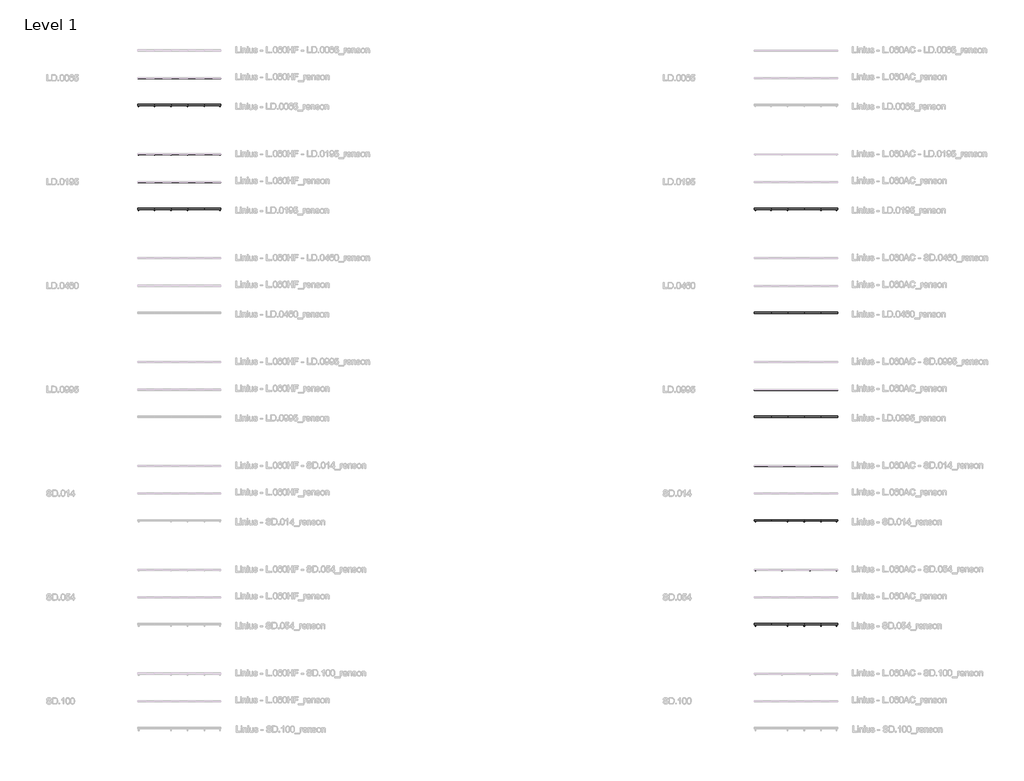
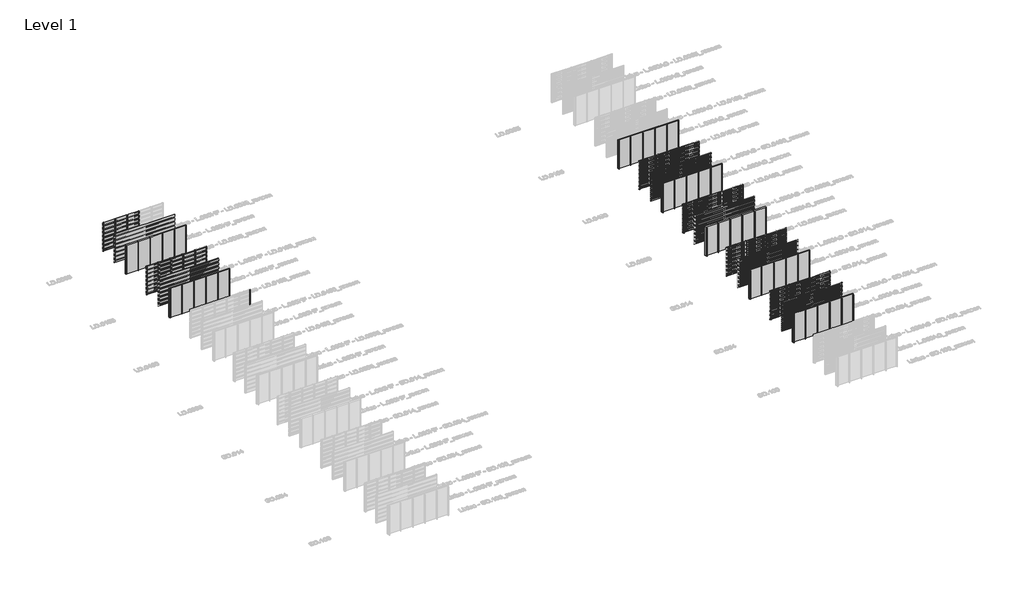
# One storey, part 3 of 153: 69 members, 61 plates.
"""IFC4 building model written with IfcOpenShell, lengths in millimetres."""

from ifc_helpers import new_model, si_unit, origin, origin_with_axes, place, context, project, spatial, polyline, outline, extrude, transform, mapped, element, save
from components import rectangular_mullion_42be434b, rectangular_mullion_e1f482b2, rectangular_mullion_21e3ddae, rectangular_mullion_fb497acc, rectangular_mullion_ffdfeaf4, rectangular_mullion_e0a14876, rectangular_mullion_146f339b, rectangular_mullion_aa1047c5, rectangular_mullion_c2c7736a, rectangular_mullion_35b0a916, rectangular_mullion_bd250e2e, rectangular_mullion_7b49c8f1, rectangular_mullion_3facce28, rectangular_mullion_2b84ad7e, rectangular_mullion_0fd695e7, rectangular_mullion_6cf2c509, rectangular_mullion_9b796d85, rectangular_mullion_dfb17e98, empty_system_panel_empty_5195cd12

model = new_model("IFC4")

# Units and contexts
model_context = context("Model", 3, world=origin())
ifc_project = project(units=[si_unit("LENGTHUNIT", "METRE", prefix="MILLI")], contexts=[model_context])

# Site, building, storey
site = spatial("IfcSite", under=ifc_project)
building = spatial("IfcBuilding", under=site)
storey = spatial("IfcBuildingStorey", under=building, Name="Level 1", Elevation=0.0)

# Members
placement = place(None, origin())
rectangular_mullion_shape = rectangular_mullion_42be434b(model_context)
element("IfcMember", 1, ObjectType="Rectangular Mullion : LD.0065_renson", at=placement, inside=storey, context=model_context, shape_type="MappedRepresentation", body=[
    mapped(rectangular_mullion_shape, transform((4066.6208096, 73981.0540136, 0.0), x_axis=(-1.0, 0.0, 0.0), y_axis=(0.0, 1.0, 0.0), z_axis=(0.0, 0.0, -1.0))),
])
element("IfcMember", 2, ObjectType="Rectangular Mullion : LD.0065_renson", at=placement, inside=storey, context=model_context, shape_type="MappedRepresentation", body=[
    mapped(rectangular_mullion_shape, transform((2866.6208097, 73981.0540136, 0.0), x_axis=(-1.0, 0.0, 0.0), y_axis=(0.0, 1.0, 0.0), z_axis=(0.0, 0.0, -1.0))),
])
element("IfcMember", 3, ObjectType="Rectangular Mullion : LD.0065_renson", at=placement, inside=storey, context=model_context, shape_type="MappedRepresentation", body=[
    mapped(rectangular_mullion_shape, transform((1666.6208099, 73981.0540136, 0.0), x_axis=(-1.0, 0.0, 0.0), y_axis=(0.0, 1.0, 0.0), z_axis=(0.0, 0.0, -1.0))),
])
element("IfcMember", 4, ObjectType="Rectangular Mullion : LD.0065_renson", at=placement, inside=storey, context=model_context, shape_type="MappedRepresentation", body=[
    mapped(rectangular_mullion_shape, transform((5266.6208095, 69981.0540136, 0.0), x_axis=(-1.0, 0.0, 0.0), y_axis=(0.0, 1.0, 0.0), z_axis=(0.0, 0.0, -1.0))),
])
element("IfcMember", 5, ObjectType="Rectangular Mullion : LD.0065_renson", at=placement, inside=storey, context=model_context, shape_type="MappedRepresentation", body=[
    mapped(rectangular_mullion_shape, transform((4066.6208096, 69981.0540136, 0.0), x_axis=(-1.0, 0.0, 0.0), y_axis=(0.0, 1.0, 0.0), z_axis=(0.0, 0.0, -1.0))),
])
element("IfcMember", 6, ObjectType="Rectangular Mullion : LD.0065_renson", at=placement, inside=storey, context=model_context, shape_type="MappedRepresentation", body=[
    mapped(rectangular_mullion_shape, transform((2866.6208097, 69981.0540136, 0.0), x_axis=(-1.0, 0.0, 0.0), y_axis=(0.0, 1.0, 0.0), z_axis=(0.0, 0.0, -1.0))),
])
element("IfcMember", 7, ObjectType="Rectangular Mullion : LD.0065_renson", at=placement, inside=storey, context=model_context, shape_type="MappedRepresentation", body=[
    mapped(rectangular_mullion_shape, transform((1666.6208099, 69981.0540136, 0.0), x_axis=(-1.0, 0.0, 0.0), y_axis=(0.0, 1.0, 0.0), z_axis=(0.0, 0.0, -1.0))),
])
rectangular_mullion_2_shape = rectangular_mullion_e1f482b2(model_context)
element("IfcMember", 8, ObjectType="Rectangular Mullion : LD.0195_renson", at=placement, inside=storey, context=model_context, shape_type="MappedRepresentation", body=[
    mapped(rectangular_mullion_2_shape, transform((5266.6208095, 66481.0540136, 0.0), x_axis=(-1.0, 0.0, 0.0), y_axis=(0.0, 1.0, 0.0), z_axis=(0.0, 0.0, -1.0))),
])
element("IfcMember", 9, ObjectType="Rectangular Mullion : LD.0195_renson", at=placement, inside=storey, context=model_context, shape_type="MappedRepresentation", body=[
    mapped(rectangular_mullion_2_shape, transform((4066.6208096, 66481.0540136, 0.0), x_axis=(-1.0, 0.0, 0.0), y_axis=(0.0, 1.0, 0.0), z_axis=(0.0, 0.0, -1.0))),
])
element("IfcMember", 10, ObjectType="Rectangular Mullion : LD.0195_renson", at=placement, inside=storey, context=model_context, shape_type="MappedRepresentation", body=[
    mapped(rectangular_mullion_2_shape, transform((2866.6208097, 66481.0540136, 0.0), x_axis=(-1.0, 0.0, 0.0), y_axis=(0.0, 1.0, 0.0), z_axis=(0.0, 0.0, -1.0))),
])
element("IfcMember", 11, ObjectType="Rectangular Mullion : LD.0195_renson", at=placement, inside=storey, context=model_context, shape_type="MappedRepresentation", body=[
    mapped(rectangular_mullion_2_shape, transform((1666.6208099, 66481.0540136, 0.0), x_axis=(-1.0, 0.0, 0.0), y_axis=(0.0, 1.0, 0.0), z_axis=(0.0, 0.0, -1.0))),
])
element("IfcMember", 12, ObjectType="Rectangular Mullion : LD.0195_renson", at=placement, inside=storey, context=model_context, shape_type="MappedRepresentation", body=[
    mapped(rectangular_mullion_2_shape, transform((5266.6208095, 62481.0540136, 0.0), x_axis=(-1.0, 0.0, 0.0), y_axis=(0.0, 1.0, 0.0), z_axis=(0.0, 0.0, -1.0))),
])
element("IfcMember", 13, ObjectType="Rectangular Mullion : LD.0195_renson", at=placement, inside=storey, context=model_context, shape_type="MappedRepresentation", body=[
    mapped(rectangular_mullion_2_shape, transform((4066.6208096, 62481.0540136, 0.0), x_axis=(-1.0, 0.0, 0.0), y_axis=(0.0, 1.0, 0.0), z_axis=(0.0, 0.0, -1.0))),
])
element("IfcMember", 14, ObjectType="Rectangular Mullion : LD.0195_renson", at=placement, inside=storey, context=model_context, shape_type="MappedRepresentation", body=[
    mapped(rectangular_mullion_2_shape, transform((2866.6208097, 62481.0540136, 0.0), x_axis=(-1.0, 0.0, 0.0), y_axis=(0.0, 1.0, 0.0), z_axis=(0.0, 0.0, -1.0))),
])
element("IfcMember", 15, ObjectType="Rectangular Mullion : LD.0195_renson", at=placement, inside=storey, context=model_context, shape_type="MappedRepresentation", body=[
    mapped(rectangular_mullion_2_shape, transform((1666.6208099, 62481.0540136, 0.0), x_axis=(-1.0, 0.0, 0.0), y_axis=(0.0, 1.0, 0.0), z_axis=(0.0, 0.0, -1.0))),
])
element("IfcMember", 16, ObjectType="Rectangular Mullion : LD.0195_renson", at=placement, inside=storey, context=model_context, shape_type="MappedRepresentation", body=[
    mapped(rectangular_mullion_2_shape, transform((47366.6208097, 62483.0540136, 0.0), x_axis=(-1.0, 0.0, 0.0), y_axis=(0.0, 1.0, 0.0), z_axis=(0.0, 0.0, -1.0))),
])
element("IfcMember", 17, ObjectType="Rectangular Mullion : LD.0195_renson", at=placement, inside=storey, context=model_context, shape_type="MappedRepresentation", body=[
    mapped(rectangular_mullion_2_shape, transform((46166.6208099, 62483.0540136, 0.0), x_axis=(-1.0, 0.0, 0.0), y_axis=(0.0, 1.0, 0.0), z_axis=(0.0, 0.0, -1.0))),
])
element("IfcMember", 18, ObjectType="Rectangular Mullion : LD.0195_renson", at=placement, inside=storey, context=model_context, shape_type="MappedRepresentation", body=[
    mapped(rectangular_mullion_2_shape, transform((48566.6208096, 62483.0540136, 0.0), x_axis=(-1.0, 0.0, 0.0), y_axis=(0.0, 1.0, 0.0), z_axis=(0.0, 0.0, -1.0))),
])
element("IfcMember", 19, ObjectType="Rectangular Mullion : LD.0195_renson", at=placement, inside=storey, context=model_context, shape_type="MappedRepresentation", body=[
    mapped(rectangular_mullion_2_shape, transform((49766.6208095, 62483.0540136, 0.0), x_axis=(-1.0, 0.0, 0.0), y_axis=(0.0, 1.0, 0.0), z_axis=(0.0, 0.0, -1.0))),
])
rectangular_mullion_3_shape = rectangular_mullion_21e3ddae(model_context)
element("IfcMember", 20, ObjectType="Rectangular Mullion : LD.0460_renson", at=placement, inside=storey, context=model_context, shape_type="MappedRepresentation", body=[
    mapped(rectangular_mullion_3_shape, transform((48966.6208096, 58983.0540136, 0.0), x_axis=(-1.0, 0.0, 0.0), y_axis=(0.0, 1.0, 0.0), z_axis=(0.0, 0.0, -1.0))),
])
element("IfcMember", 21, ObjectType="Rectangular Mullion : LD.0460_renson", at=placement, inside=storey, context=model_context, shape_type="MappedRepresentation", body=[
    mapped(rectangular_mullion_3_shape, transform((46966.6208098, 58983.0540136, 0.0), x_axis=(-1.0, 0.0, 0.0), y_axis=(0.0, 1.0, 0.0), z_axis=(0.0, 0.0, -1.0))),
])
element("IfcMember", 22, ObjectType="Rectangular Mullion : LD.0460_renson", at=placement, inside=storey, context=model_context, shape_type="MappedRepresentation", body=[
    mapped(rectangular_mullion_3_shape, transform((47366.6208097, 54983.0540136, 0.0), x_axis=(-1.0, 0.0, 0.0), y_axis=(0.0, 1.0, 0.0), z_axis=(0.0, 0.0, -1.0))),
])
element("IfcMember", 23, ObjectType="Rectangular Mullion : LD.0460_renson", at=placement, inside=storey, context=model_context, shape_type="MappedRepresentation", body=[
    mapped(rectangular_mullion_3_shape, transform((46166.6208099, 54983.0540136, 0.0), x_axis=(-1.0, 0.0, 0.0), y_axis=(0.0, 1.0, 0.0), z_axis=(0.0, 0.0, -1.0))),
])
element("IfcMember", 24, ObjectType="Rectangular Mullion : LD.0460_renson", at=placement, inside=storey, context=model_context, shape_type="MappedRepresentation", body=[
    mapped(rectangular_mullion_3_shape, transform((48566.6208096, 54983.0540136, 0.0), x_axis=(-1.0, 0.0, 0.0), y_axis=(0.0, 1.0, 0.0), z_axis=(0.0, 0.0, -1.0))),
])
element("IfcMember", 25, ObjectType="Rectangular Mullion : LD.0460_renson", at=placement, inside=storey, context=model_context, shape_type="MappedRepresentation", body=[
    mapped(rectangular_mullion_3_shape, transform((49766.6208095, 54983.0540136, 0.0), x_axis=(-1.0, 0.0, 0.0), y_axis=(0.0, 1.0, 0.0), z_axis=(0.0, 0.0, -1.0))),
])
rectangular_mullion_4_shape = rectangular_mullion_fb497acc(model_context)
element("IfcMember", 26, ObjectType="Rectangular Mullion : LD.0995_renson", at=placement, inside=storey, context=model_context, shape_type="MappedRepresentation", body=[
    mapped(rectangular_mullion_4_shape, transform((48966.6208096, 51483.0540136, 0.0), x_axis=(-1.0, 0.0, 0.0), y_axis=(0.0, 1.0, 0.0), z_axis=(0.0, 0.0, -1.0))),
])
element("IfcMember", 27, ObjectType="Rectangular Mullion : LD.0995_renson", at=placement, inside=storey, context=model_context, shape_type="MappedRepresentation", body=[
    mapped(rectangular_mullion_4_shape, transform((46966.6208098, 51483.0540136, 0.0), x_axis=(-1.0, 0.0, 0.0), y_axis=(0.0, 1.0, 0.0), z_axis=(0.0, 0.0, -1.0))),
])
element("IfcMember", 28, ObjectType="Rectangular Mullion : LD.0995_renson", at=placement, inside=storey, context=model_context, shape_type="MappedRepresentation", body=[
    mapped(rectangular_mullion_4_shape, transform((47366.6208097, 47483.0540136, 0.0), x_axis=(-1.0, 0.0, 0.0), y_axis=(0.0, 1.0, 0.0), z_axis=(0.0, 0.0, -1.0))),
])
element("IfcMember", 29, ObjectType="Rectangular Mullion : LD.0995_renson", at=placement, inside=storey, context=model_context, shape_type="MappedRepresentation", body=[
    mapped(rectangular_mullion_4_shape, transform((46166.6208099, 47483.0540136, 0.0), x_axis=(-1.0, 0.0, 0.0), y_axis=(0.0, 1.0, 0.0), z_axis=(0.0, 0.0, -1.0))),
])
element("IfcMember", 30, ObjectType="Rectangular Mullion : LD.0995_renson", at=placement, inside=storey, context=model_context, shape_type="MappedRepresentation", body=[
    mapped(rectangular_mullion_4_shape, transform((48566.6208096, 47483.0540136, 0.0), x_axis=(-1.0, 0.0, 0.0), y_axis=(0.0, 1.0, 0.0), z_axis=(0.0, 0.0, -1.0))),
])
element("IfcMember", 31, ObjectType="Rectangular Mullion : LD.0995_renson", at=placement, inside=storey, context=model_context, shape_type="MappedRepresentation", body=[
    mapped(rectangular_mullion_4_shape, transform((49766.6208095, 47483.0540136, 0.0), x_axis=(-1.0, 0.0, 0.0), y_axis=(0.0, 1.0, 0.0), z_axis=(0.0, 0.0, -1.0))),
])
rectangular_mullion_5_shape = rectangular_mullion_ffdfeaf4(model_context)
element("IfcMember", 32, ObjectType="Rectangular Mullion : LD.0065 - left_renson", at=placement, inside=storey, context=model_context, shape_type="MappedRepresentation", body=[
    mapped(rectangular_mullion_5_shape, transform((466.6208097, 73981.0540136, 0.0), x_axis=(-1.0, 0.0, 0.0), y_axis=(0.0, 1.0, 0.0), z_axis=(0.0, 0.0, -1.0))),
])
element("IfcMember", 33, ObjectType="Rectangular Mullion : LD.0065 - left_renson", at=placement, inside=storey, context=model_context, shape_type="MappedRepresentation", body=[
    mapped(rectangular_mullion_5_shape, transform((466.6208097, 69981.0540136, 0.0), x_axis=(-1.0, 0.0, 0.0), y_axis=(0.0, 1.0, 0.0), z_axis=(0.0, 0.0, -1.0))),
])
rectangular_mullion_6_shape = rectangular_mullion_e0a14876(model_context)
element("IfcMember", 34, ObjectType="Rectangular Mullion : LD.0065 - right_renson", at=placement, inside=storey, context=model_context, shape_type="MappedRepresentation", body=[
    mapped(rectangular_mullion_6_shape, transform((6466.6208097, 69981.0540136, 3000.0), x_axis=(1.0, 0.0, 0.0), y_axis=(0.0, 1.0, 0.0), z_axis=(0.0, 0.0, 1.0))),
])
rectangular_mullion_7_shape = rectangular_mullion_146f339b(model_context)
element("IfcMember", 35, ObjectType="Rectangular Mullion : LD.0195 - left_renson", at=placement, inside=storey, context=model_context, shape_type="MappedRepresentation", body=[
    mapped(rectangular_mullion_7_shape, transform((466.6208097, 66481.0540136, 0.0), x_axis=(-1.0, 0.0, 0.0), y_axis=(0.0, 1.0, 0.0), z_axis=(0.0, 0.0, -1.0))),
])
element("IfcMember", 36, ObjectType="Rectangular Mullion : LD.0195 - left_renson", at=placement, inside=storey, context=model_context, shape_type="MappedRepresentation", body=[
    mapped(rectangular_mullion_7_shape, transform((466.6208097, 62481.0540136, 0.0), x_axis=(-1.0, 0.0, 0.0), y_axis=(0.0, 1.0, 0.0), z_axis=(0.0, 0.0, -1.0))),
])
element("IfcMember", 37, ObjectType="Rectangular Mullion : LD.0195 - left_renson", at=placement, inside=storey, context=model_context, shape_type="MappedRepresentation", body=[
    mapped(rectangular_mullion_7_shape, transform((44966.6208097, 62483.0540136, 0.0), x_axis=(-1.0, 0.0, 0.0), y_axis=(0.0, 1.0, 0.0), z_axis=(0.0, 0.0, -1.0))),
])
rectangular_mullion_8_shape = rectangular_mullion_aa1047c5(model_context)
element("IfcMember", 38, ObjectType="Rectangular Mullion : LD.0195 - right_renson", at=placement, inside=storey, context=model_context, shape_type="MappedRepresentation", body=[
    mapped(rectangular_mullion_8_shape, transform((6466.6208097, 66481.0540136, 3000.0), x_axis=(1.0, 0.0, 0.0), y_axis=(0.0, 1.0, 0.0), z_axis=(0.0, 0.0, 1.0))),
])
element("IfcMember", 39, ObjectType="Rectangular Mullion : LD.0195 - right_renson", at=placement, inside=storey, context=model_context, shape_type="MappedRepresentation", body=[
    mapped(rectangular_mullion_8_shape, transform((6466.6208097, 62481.0540136, 3000.0), x_axis=(1.0, 0.0, 0.0), y_axis=(0.0, 1.0, 0.0), z_axis=(0.0, 0.0, 1.0))),
])
element("IfcMember", 40, ObjectType="Rectangular Mullion : LD.0195 - right_renson", at=placement, inside=storey, context=model_context, shape_type="MappedRepresentation", body=[
    mapped(rectangular_mullion_8_shape, transform((50966.6208097, 62483.0540136, 3000.0), x_axis=(1.0, 0.0, 0.0), y_axis=(0.0, 1.0, 0.0), z_axis=(0.0, 0.0, 1.0))),
])
rectangular_mullion_9_shape = rectangular_mullion_c2c7736a(model_context)
element("IfcMember", 41, ObjectType="Rectangular Mullion : LD.0460 - left_renson", at=placement, inside=storey, context=model_context, shape_type="MappedRepresentation", body=[
    mapped(rectangular_mullion_9_shape, transform((44966.6208097, 58983.0540136, 0.0), x_axis=(-1.0, 0.0, 0.0), y_axis=(0.0, 1.0, 0.0), z_axis=(0.0, 0.0, -1.0))),
])
element("IfcMember", 42, ObjectType="Rectangular Mullion : LD.0460 - left_renson", at=placement, inside=storey, context=model_context, shape_type="MappedRepresentation", body=[
    mapped(rectangular_mullion_9_shape, transform((44966.6208097, 54983.0540136, 0.0), x_axis=(-1.0, 0.0, 0.0), y_axis=(0.0, 1.0, 0.0), z_axis=(0.0, 0.0, -1.0))),
])
rectangular_mullion_10_shape = rectangular_mullion_35b0a916(model_context)
element("IfcMember", 43, ObjectType="Rectangular Mullion : LD.0460 - right_renson", at=placement, inside=storey, context=model_context, shape_type="MappedRepresentation", body=[
    mapped(rectangular_mullion_10_shape, transform((6466.6208097, 58981.0540136, 3000.0), x_axis=(1.0, 0.0, 0.0), y_axis=(0.0, 1.0, 0.0), z_axis=(0.0, 0.0, 1.0))),
])
element("IfcMember", 44, ObjectType="Rectangular Mullion : LD.0460 - right_renson", at=placement, inside=storey, context=model_context, shape_type="MappedRepresentation", body=[
    mapped(rectangular_mullion_10_shape, transform((50966.6208097, 58983.0540136, 3000.0), x_axis=(1.0, 0.0, 0.0), y_axis=(0.0, 1.0, 0.0), z_axis=(0.0, 0.0, 1.0))),
])
element("IfcMember", 45, ObjectType="Rectangular Mullion : LD.0460 - right_renson", at=placement, inside=storey, context=model_context, shape_type="MappedRepresentation", body=[
    mapped(rectangular_mullion_10_shape, transform((50966.6208097, 54983.0540136, 3000.0), x_axis=(1.0, 0.0, 0.0), y_axis=(0.0, 1.0, 0.0), z_axis=(0.0, 0.0, 1.0))),
])
rectangular_mullion_11_shape = rectangular_mullion_bd250e2e(model_context)
element("IfcMember", 46, ObjectType="Rectangular Mullion : LD.0995 - left_renson", at=placement, inside=storey, context=model_context, shape_type="MappedRepresentation", body=[
    mapped(rectangular_mullion_11_shape, transform((44966.6208097, 51483.0540136, 0.0), x_axis=(-1.0, 0.0, 0.0), y_axis=(0.0, 1.0, 0.0), z_axis=(0.0, 0.0, -1.0))),
])
element("IfcMember", 47, ObjectType="Rectangular Mullion : LD.0995 - left_renson", at=placement, inside=storey, context=model_context, shape_type="MappedRepresentation", body=[
    mapped(rectangular_mullion_11_shape, transform((44966.6208097, 47483.0540136, 0.0), x_axis=(-1.0, 0.0, 0.0), y_axis=(0.0, 1.0, 0.0), z_axis=(0.0, 0.0, -1.0))),
])
rectangular_mullion_12_shape = rectangular_mullion_7b49c8f1(model_context)
element("IfcMember", 48, ObjectType="Rectangular Mullion : LD.0995 - right_renson", at=placement, inside=storey, context=model_context, shape_type="MappedRepresentation", body=[
    mapped(rectangular_mullion_12_shape, transform((50966.6208097, 51483.0540136, 3000.0), x_axis=(1.0, 0.0, 0.0), y_axis=(0.0, 1.0, 0.0), z_axis=(0.0, 0.0, 1.0))),
])
element("IfcMember", 49, ObjectType="Rectangular Mullion : LD.0995 - right_renson", at=placement, inside=storey, context=model_context, shape_type="MappedRepresentation", body=[
    mapped(rectangular_mullion_12_shape, transform((50966.6208097, 47483.0540136, 3000.0), x_axis=(1.0, 0.0, 0.0), y_axis=(0.0, 1.0, 0.0), z_axis=(0.0, 0.0, 1.0))),
])
rectangular_mullion_13_shape = rectangular_mullion_3facce28(model_context)
element("IfcMember", 50, ObjectType="Rectangular Mullion : SD.014_renson", at=placement, inside=storey, context=model_context, shape_type="MappedRepresentation", body=[
    mapped(rectangular_mullion_13_shape, transform((48966.6208096, 43983.0540136, 0.0), x_axis=(-1.0, 0.0, 0.0), y_axis=(0.0, 1.0, 0.0), z_axis=(0.0, 0.0, -1.0))),
])
element("IfcMember", 51, ObjectType="Rectangular Mullion : SD.014_renson", at=placement, inside=storey, context=model_context, shape_type="MappedRepresentation", body=[
    mapped(rectangular_mullion_13_shape, transform((46966.6208098, 43983.0540136, 0.0), x_axis=(-1.0, 0.0, 0.0), y_axis=(0.0, 1.0, 0.0), z_axis=(0.0, 0.0, -1.0))),
])
element("IfcMember", 52, ObjectType="Rectangular Mullion : SD.014_renson", at=placement, inside=storey, context=model_context, shape_type="MappedRepresentation", body=[
    mapped(rectangular_mullion_13_shape, transform((47366.6208097, 39983.0540136, 0.0), x_axis=(-1.0, 0.0, 0.0), y_axis=(0.0, 1.0, 0.0), z_axis=(0.0, 0.0, -1.0))),
])
element("IfcMember", 53, ObjectType="Rectangular Mullion : SD.014_renson", at=placement, inside=storey, context=model_context, shape_type="MappedRepresentation", body=[
    mapped(rectangular_mullion_13_shape, transform((46166.6208099, 39983.0540136, 0.0), x_axis=(-1.0, 0.0, 0.0), y_axis=(0.0, 1.0, 0.0), z_axis=(0.0, 0.0, -1.0))),
])
element("IfcMember", 54, ObjectType="Rectangular Mullion : SD.014_renson", at=placement, inside=storey, context=model_context, shape_type="MappedRepresentation", body=[
    mapped(rectangular_mullion_13_shape, transform((48566.6208096, 39983.0540136, 0.0), x_axis=(-1.0, 0.0, 0.0), y_axis=(0.0, 1.0, 0.0), z_axis=(0.0, 0.0, -1.0))),
])
element("IfcMember", 55, ObjectType="Rectangular Mullion : SD.014_renson", at=placement, inside=storey, context=model_context, shape_type="MappedRepresentation", body=[
    mapped(rectangular_mullion_13_shape, transform((49766.6208095, 39983.0540136, 0.0), x_axis=(-1.0, 0.0, 0.0), y_axis=(0.0, 1.0, 0.0), z_axis=(0.0, 0.0, -1.0))),
])
rectangular_mullion_14_shape = rectangular_mullion_2b84ad7e(model_context)
element("IfcMember", 56, ObjectType="Rectangular Mullion : SD.014 - left_renson", at=placement, inside=storey, context=model_context, shape_type="MappedRepresentation", body=[
    mapped(rectangular_mullion_14_shape, transform((44966.6208097, 43983.0540136, 0.0), x_axis=(-1.0, 0.0, 0.0), y_axis=(0.0, 1.0, 0.0), z_axis=(0.0, 0.0, -1.0))),
])
element("IfcMember", 57, ObjectType="Rectangular Mullion : SD.014 - left_renson", at=placement, inside=storey, context=model_context, shape_type="MappedRepresentation", body=[
    mapped(rectangular_mullion_14_shape, transform((44966.6208097, 39983.0540136, 0.0), x_axis=(-1.0, 0.0, 0.0), y_axis=(0.0, 1.0, 0.0), z_axis=(0.0, 0.0, -1.0))),
])
rectangular_mullion_15_shape = rectangular_mullion_0fd695e7(model_context)
element("IfcMember", 58, ObjectType="Rectangular Mullion : SD.014 - right_renson", at=placement, inside=storey, context=model_context, shape_type="MappedRepresentation", body=[
    mapped(rectangular_mullion_15_shape, transform((50966.6208097, 43983.0540136, 3000.0), x_axis=(1.0, 0.0, 0.0), y_axis=(0.0, 1.0, 0.0), z_axis=(0.0, 0.0, 1.0))),
])
element("IfcMember", 59, ObjectType="Rectangular Mullion : SD.014 - right_renson", at=placement, inside=storey, context=model_context, shape_type="MappedRepresentation", body=[
    mapped(rectangular_mullion_15_shape, transform((50966.6208097, 39983.0540136, 3000.0), x_axis=(1.0, 0.0, 0.0), y_axis=(0.0, 1.0, 0.0), z_axis=(0.0, 0.0, 1.0))),
])
rectangular_mullion_16_shape = rectangular_mullion_6cf2c509(model_context)
element("IfcMember", 60, ObjectType="Rectangular Mullion : SD.054_renson", at=placement, inside=storey, context=model_context, shape_type="MappedRepresentation", body=[
    mapped(rectangular_mullion_16_shape, transform((48966.6208096, 36483.0540136, 0.0), x_axis=(-1.0, 0.0, 0.0), y_axis=(0.0, 1.0, 0.0), z_axis=(0.0, 0.0, -1.0))),
])
element("IfcMember", 61, ObjectType="Rectangular Mullion : SD.054_renson", at=placement, inside=storey, context=model_context, shape_type="MappedRepresentation", body=[
    mapped(rectangular_mullion_16_shape, transform((46966.6208098, 36483.0540136, 0.0), x_axis=(-1.0, 0.0, 0.0), y_axis=(0.0, 1.0, 0.0), z_axis=(0.0, 0.0, -1.0))),
])
element("IfcMember", 62, ObjectType="Rectangular Mullion : SD.054_renson", at=placement, inside=storey, context=model_context, shape_type="MappedRepresentation", body=[
    mapped(rectangular_mullion_16_shape, transform((47366.6208097, 32483.0540136, 0.0), x_axis=(-1.0, 0.0, 0.0), y_axis=(0.0, 1.0, 0.0), z_axis=(0.0, 0.0, -1.0))),
])
element("IfcMember", 63, ObjectType="Rectangular Mullion : SD.054_renson", at=placement, inside=storey, context=model_context, shape_type="MappedRepresentation", body=[
    mapped(rectangular_mullion_16_shape, transform((46166.6208099, 32483.0540136, 0.0), x_axis=(-1.0, 0.0, 0.0), y_axis=(0.0, 1.0, 0.0), z_axis=(0.0, 0.0, -1.0))),
])
element("IfcMember", 64, ObjectType="Rectangular Mullion : SD.054_renson", at=placement, inside=storey, context=model_context, shape_type="MappedRepresentation", body=[
    mapped(rectangular_mullion_16_shape, transform((48566.6208096, 32483.0540136, 0.0), x_axis=(-1.0, 0.0, 0.0), y_axis=(0.0, 1.0, 0.0), z_axis=(0.0, 0.0, -1.0))),
])
element("IfcMember", 65, ObjectType="Rectangular Mullion : SD.054_renson", at=placement, inside=storey, context=model_context, shape_type="MappedRepresentation", body=[
    mapped(rectangular_mullion_16_shape, transform((49766.6208095, 32483.0540136, 0.0), x_axis=(-1.0, 0.0, 0.0), y_axis=(0.0, 1.0, 0.0), z_axis=(0.0, 0.0, -1.0))),
])
rectangular_mullion_17_shape = rectangular_mullion_9b796d85(model_context)
element("IfcMember", 66, ObjectType="Rectangular Mullion : SD.054 - left_renson", at=placement, inside=storey, context=model_context, shape_type="MappedRepresentation", body=[
    mapped(rectangular_mullion_17_shape, transform((44966.6208097, 36483.0540136, 0.0), x_axis=(-1.0, 0.0, 0.0), y_axis=(0.0, 1.0, 0.0), z_axis=(0.0, 0.0, -1.0))),
])
element("IfcMember", 67, ObjectType="Rectangular Mullion : SD.054 - left_renson", at=placement, inside=storey, context=model_context, shape_type="MappedRepresentation", body=[
    mapped(rectangular_mullion_17_shape, transform((44966.6208097, 32483.0540136, 0.0), x_axis=(-1.0, 0.0, 0.0), y_axis=(0.0, 1.0, 0.0), z_axis=(0.0, 0.0, -1.0))),
])
rectangular_mullion_18_shape = rectangular_mullion_dfb17e98(model_context)
element("IfcMember", 68, ObjectType="Rectangular Mullion : SD.054 - right_renson", at=placement, inside=storey, context=model_context, shape_type="MappedRepresentation", body=[
    mapped(rectangular_mullion_18_shape, transform((50966.6208097, 36483.0540136, 3000.0), x_axis=(1.0, 0.0, 0.0), y_axis=(0.0, 1.0, 0.0), z_axis=(0.0, 0.0, 1.0))),
])
element("IfcMember", 69, ObjectType="Rectangular Mullion : SD.054 - right_renson", at=placement, inside=storey, context=model_context, shape_type="MappedRepresentation", body=[
    mapped(rectangular_mullion_18_shape, transform((50966.6208097, 32483.0540136, 3000.0), x_axis=(1.0, 0.0, 0.0), y_axis=(0.0, 1.0, 0.0), z_axis=(0.0, 0.0, 1.0))),
])

# Plates
element("IfcPlate", 70, ObjectType="Linius - L.060HF_renson", at=placement, inside=storey, context=model_context, shape_type="SweptSolid", body=[
    extrude(outline(polyline([(466.6208097, 73982.0540136), (1666.6208099, 73982.0540136), (1666.6208099, 73980.0540136), (466.6208097, 73980.0540136), (466.6208097, 73982.0540136)])), origin_with_axes(), (0.0, 0.0, 1.0), 3000.0),
])
element("IfcPlate", 71, ObjectType="Linius - L.060HF_renson", at=placement, inside=storey, context=model_context, shape_type="SweptSolid", body=[
    extrude(outline(polyline([(1666.6208099, 73982.0540136), (2866.6208097, 73982.0540136), (2866.6208097, 73980.0540136), (1666.6208099, 73980.0540136), (1666.6208099, 73982.0540136)])), origin_with_axes(), (0.0, 0.0, 1.0), 3000.0),
])
element("IfcPlate", 72, ObjectType="Linius - L.060HF_renson", at=placement, inside=storey, context=model_context, shape_type="SweptSolid", body=[
    extrude(outline(polyline([(2866.6208097, 73982.0540136), (4066.6208096, 73982.0540136), (4066.6208096, 73980.0540136), (2866.6208097, 73980.0540136), (2866.6208097, 73982.0540136)])), origin_with_axes(), (0.0, 0.0, 1.0), 3000.0),
])
element("IfcPlate", 73, ObjectType="Linius - L.060HF_renson", at=placement, inside=storey, context=model_context, shape_type="SweptSolid", body=[
    extrude(outline(polyline([(466.6208097, 71982.0540136), (6466.6208097, 71982.0540136), (6466.6208097, 71980.0540136), (466.6208097, 71980.0540136), (466.6208097, 71982.0540136)])), origin_with_axes(), (0.0, 0.0, 1.0), 3000.0),
])
element("IfcPlate", 74, ObjectType="Linius - L.060HF_renson", at=placement, inside=storey, context=model_context, shape_type="SweptSolid", body=[
    extrude(outline(polyline([(466.6208097, 66482.0540136), (1666.6208099, 66482.0540136), (1666.6208099, 66480.0540136), (466.6208097, 66480.0540136), (466.6208097, 66482.0540136)])), origin_with_axes(), (0.0, 0.0, 1.0), 3000.0),
])
element("IfcPlate", 75, ObjectType="Linius - L.060HF_renson", at=placement, inside=storey, context=model_context, shape_type="SweptSolid", body=[
    extrude(outline(polyline([(1666.6208099, 66482.0540136), (2866.6208097, 66482.0540136), (2866.6208097, 66480.0540136), (1666.6208099, 66480.0540136), (1666.6208099, 66482.0540136)])), origin_with_axes(), (0.0, 0.0, 1.0), 3000.0),
])
element("IfcPlate", 76, ObjectType="Linius - L.060HF_renson", at=placement, inside=storey, context=model_context, shape_type="SweptSolid", body=[
    extrude(outline(polyline([(2866.6208097, 66482.0540136), (4066.6208096, 66482.0540136), (4066.6208096, 66480.0540136), (2866.6208097, 66480.0540136), (2866.6208097, 66482.0540136)])), origin_with_axes(), (0.0, 0.0, 1.0), 3000.0),
])
element("IfcPlate", 77, ObjectType="Linius - L.060HF_renson", at=placement, inside=storey, context=model_context, shape_type="SweptSolid", body=[
    extrude(outline(polyline([(4066.6208096, 66482.0540136), (5266.6208095, 66482.0540136), (5266.6208095, 66480.0540136), (4066.6208096, 66480.0540136), (4066.6208096, 66482.0540136)])), origin_with_axes(), (0.0, 0.0, 1.0), 3000.0),
])
element("IfcPlate", 78, ObjectType="Linius - L.060HF_renson", at=placement, inside=storey, context=model_context, shape_type="SweptSolid", body=[
    extrude(outline(polyline([(466.6208097, 64482.0540136), (6466.6208097, 64482.0540136), (6466.6208097, 64480.0540136), (466.6208097, 64480.0540136), (466.6208097, 64482.0540136)])), origin_with_axes(), (0.0, 0.0, 1.0), 3000.0),
])
element("IfcPlate", 79, ObjectType="Linius - L.060HF_renson", at=placement, inside=storey, context=model_context, shape_type="SweptSolid", body=[
    extrude(outline(polyline([(5266.6208095, 66482.0540136), (6466.6208097, 66482.0540136), (6466.6208097, 66480.0540136), (5266.6208095, 66480.0540136), (5266.6208095, 66482.0540136)])), origin_with_axes(), (0.0, 0.0, 1.0), 3000.0),
])
element("IfcPlate", 80, ObjectType="Linius - L.060AC_renson", at=placement, inside=storey, context=model_context, shape_type="SweptSolid", body=[
    extrude(outline(polyline([(44966.6208097, 58984.0540136), (46966.6208098, 58984.0540136), (46966.6208098, 58982.0540136), (44966.6208097, 58982.0540136), (44966.6208097, 58984.0540136)])), origin_with_axes(), (0.0, 0.0, 1.0), 3000.0),
])
element("IfcPlate", 81, ObjectType="Linius - L.060AC_renson", at=placement, inside=storey, context=model_context, shape_type="SweptSolid", body=[
    extrude(outline(polyline([(46966.6208098, 58984.0540136), (48966.6208096, 58984.0540136), (48966.6208096, 58982.0540136), (46966.6208098, 58982.0540136), (46966.6208098, 58984.0540136)])), origin_with_axes(), (0.0, 0.0, 1.0), 3000.0),
])
element("IfcPlate", 82, ObjectType="Linius - L.060AC_renson", at=placement, inside=storey, context=model_context, shape_type="SweptSolid", body=[
    extrude(outline(polyline([(44966.6208097, 56984.0540136), (50966.6208097, 56984.0540136), (50966.6208097, 56982.0540136), (44966.6208097, 56982.0540136), (44966.6208097, 56984.0540136)])), origin_with_axes(), (0.0, 0.0, 1.0), 3000.0),
])
element("IfcPlate", 83, ObjectType="Linius - L.060AC_renson", at=placement, inside=storey, context=model_context, shape_type="SweptSolid", body=[
    extrude(outline(polyline([(44966.6208097, 51484.0540136), (46966.6208098, 51484.0540136), (46966.6208098, 51482.0540136), (44966.6208097, 51482.0540136), (44966.6208097, 51484.0540136)])), origin_with_axes(), (0.0, 0.0, 1.0), 3000.0),
])
element("IfcPlate", 84, ObjectType="Linius - L.060AC_renson", at=placement, inside=storey, context=model_context, shape_type="SweptSolid", body=[
    extrude(outline(polyline([(46966.6208098, 51484.0540136), (48966.6208096, 51484.0540136), (48966.6208096, 51482.0540136), (46966.6208098, 51482.0540136), (46966.6208098, 51484.0540136)])), origin_with_axes(), (0.0, 0.0, 1.0), 3000.0),
])
element("IfcPlate", 85, ObjectType="Linius - L.060AC_renson", at=placement, inside=storey, context=model_context, shape_type="SweptSolid", body=[
    extrude(outline(polyline([(44966.6208097, 49484.0540136), (50966.6208097, 49484.0540136), (50966.6208097, 49482.0540136), (44966.6208097, 49482.0540136), (44966.6208097, 49484.0540136)])), origin_with_axes(), (0.0, 0.0, 1.0), 3000.0),
])
element("IfcPlate", 86, ObjectType="Linius - L.060AC_renson", at=placement, inside=storey, context=model_context, shape_type="SweptSolid", body=[
    extrude(outline(polyline([(44966.6208097, 43984.0540136), (46966.6208098, 43984.0540136), (46966.6208098, 43982.0540136), (44966.6208097, 43982.0540136), (44966.6208097, 43984.0540136)])), origin_with_axes(), (0.0, 0.0, 1.0), 3000.0),
])
element("IfcPlate", 87, ObjectType="Linius - L.060AC_renson", at=placement, inside=storey, context=model_context, shape_type="SweptSolid", body=[
    extrude(outline(polyline([(46966.6208098, 43984.0540136), (48966.6208096, 43984.0540136), (48966.6208096, 43982.0540136), (46966.6208098, 43982.0540136), (46966.6208098, 43984.0540136)])), origin_with_axes(), (0.0, 0.0, 1.0), 3000.0),
])
element("IfcPlate", 88, ObjectType="Linius - L.060AC_renson", at=placement, inside=storey, context=model_context, shape_type="SweptSolid", body=[
    extrude(outline(polyline([(44966.6208097, 41984.0540136), (50966.6208097, 41984.0540136), (50966.6208097, 41982.0540136), (44966.6208097, 41982.0540136), (44966.6208097, 41984.0540136)])), origin_with_axes(), (0.0, 0.0, 1.0), 3000.0),
])
element("IfcPlate", 89, ObjectType="Linius - L.060AC_renson", at=placement, inside=storey, context=model_context, shape_type="SweptSolid", body=[
    extrude(outline(polyline([(44966.6208097, 36484.0540136), (46966.6208098, 36484.0540136), (46966.6208098, 36482.0540136), (44966.6208097, 36482.0540136), (44966.6208097, 36484.0540136)])), origin_with_axes(), (0.0, 0.0, 1.0), 3000.0),
])
element("IfcPlate", 90, ObjectType="Linius - L.060AC_renson", at=placement, inside=storey, context=model_context, shape_type="SweptSolid", body=[
    extrude(outline(polyline([(46966.6208098, 36484.0540136), (48966.6208096, 36484.0540136), (48966.6208096, 36482.0540136), (46966.6208098, 36482.0540136), (46966.6208098, 36484.0540136)])), origin_with_axes(), (0.0, 0.0, 1.0), 3000.0),
])
element("IfcPlate", 91, ObjectType="Linius - L.060AC_renson", at=placement, inside=storey, context=model_context, shape_type="SweptSolid", body=[
    extrude(outline(polyline([(44966.6208097, 34484.0540136), (50966.6208097, 34484.0540136), (50966.6208097, 34482.0540136), (44966.6208097, 34482.0540136), (44966.6208097, 34484.0540136)])), origin_with_axes(), (0.0, 0.0, 1.0), 3000.0),
])
element("IfcPlate", 92, ObjectType="Linius - L.060AC_renson", at=placement, inside=storey, context=model_context, shape_type="SweptSolid", body=[
    extrude(outline(polyline([(48966.6208096, 58984.0540136), (50966.6208097, 58984.0540136), (50966.6208097, 58982.0540136), (48966.6208096, 58982.0540136), (48966.6208096, 58984.0540136)])), origin_with_axes(), (0.0, 0.0, 1.0), 3000.0),
])
element("IfcPlate", 93, ObjectType="Linius - L.060AC_renson", at=placement, inside=storey, context=model_context, shape_type="SweptSolid", body=[
    extrude(outline(polyline([(48966.6208096, 51484.0540136), (50966.6208097, 51484.0540136), (50966.6208097, 51482.0540136), (48966.6208096, 51482.0540136), (48966.6208096, 51484.0540136)])), origin_with_axes(), (0.0, 0.0, 1.0), 3000.0),
])
element("IfcPlate", 94, ObjectType="Linius - L.060AC_renson", at=placement, inside=storey, context=model_context, shape_type="SweptSolid", body=[
    extrude(outline(polyline([(48966.6208096, 43984.0540136), (50966.6208097, 43984.0540136), (50966.6208097, 43982.0540136), (48966.6208096, 43982.0540136), (48966.6208096, 43984.0540136)])), origin_with_axes(), (0.0, 0.0, 1.0), 3000.0),
])
element("IfcPlate", 95, ObjectType="Linius - L.060AC_renson", at=placement, inside=storey, context=model_context, shape_type="SweptSolid", body=[
    extrude(outline(polyline([(48966.6208096, 36484.0540136), (50966.6208097, 36484.0540136), (50966.6208097, 36482.0540136), (48966.6208096, 36482.0540136), (48966.6208096, 36484.0540136)])), origin_with_axes(), (0.0, 0.0, 1.0), 3000.0),
])
empty_system_panel_empty_shape = empty_system_panel_empty_5195cd12(model_context)
element("IfcPlate", 96, ObjectType="Empty System Panel : Empty", at=placement, inside=storey, context=model_context, shape_type="MappedRepresentation", body=[
    mapped(empty_system_panel_empty_shape, transform((5866.6208096, 69981.0540136, 0.0), x_axis=(-1.0, 0.0, 0.0), y_axis=(0.0, -1.0, 0.0), z_axis=(0.0, 0.0, 1.0))),
])
element("IfcPlate", 97, ObjectType="Empty System Panel : Empty", at=placement, inside=storey, context=model_context, shape_type="MappedRepresentation", body=[
    mapped(empty_system_panel_empty_shape, transform((5866.6208096, 62481.0540136, 0.0), x_axis=(-1.0, 0.0, 0.0), y_axis=(0.0, -1.0, 0.0), z_axis=(0.0, 0.0, 1.0))),
])
element("IfcPlate", 98, ObjectType="Empty System Panel : Empty", at=placement, inside=storey, context=model_context, shape_type="MappedRepresentation", body=[
    mapped(empty_system_panel_empty_shape, transform((4666.6208096, 69981.0540136, 0.0), x_axis=(-1.0, 0.0, 0.0), y_axis=(0.0, -1.0, 0.0), z_axis=(0.0, 0.0, 1.0))),
])
element("IfcPlate", 99, ObjectType="Empty System Panel : Empty", at=placement, inside=storey, context=model_context, shape_type="MappedRepresentation", body=[
    mapped(empty_system_panel_empty_shape, transform((3466.6208097, 69981.0540136, 0.0), x_axis=(-1.0, 0.0, 0.0), y_axis=(0.0, -1.0, 0.0), z_axis=(0.0, 0.0, 1.0))),
])
element("IfcPlate", 100, ObjectType="Empty System Panel : Empty", at=placement, inside=storey, context=model_context, shape_type="MappedRepresentation", body=[
    mapped(empty_system_panel_empty_shape, transform((2266.6208098, 69981.0540136, 0.0), x_axis=(-1.0, 0.0, 0.0), y_axis=(0.0, -1.0, 0.0), z_axis=(0.0, 0.0, 1.0))),
])
element("IfcPlate", 101, ObjectType="Empty System Panel : Empty", at=placement, inside=storey, context=model_context, shape_type="MappedRepresentation", body=[
    mapped(empty_system_panel_empty_shape, transform((1066.6208098, 69981.0540136, 0.0), x_axis=(-1.0, 0.0, 0.0), y_axis=(0.0, -1.0, 0.0), z_axis=(0.0, 0.0, 1.0))),
])
element("IfcPlate", 102, ObjectType="Empty System Panel : Empty", at=placement, inside=storey, context=model_context, shape_type="MappedRepresentation", body=[
    mapped(empty_system_panel_empty_shape, transform((4666.6208096, 62481.0540136, 0.0), x_axis=(-1.0, 0.0, 0.0), y_axis=(0.0, -1.0, 0.0), z_axis=(0.0, 0.0, 1.0))),
])
element("IfcPlate", 103, ObjectType="Empty System Panel : Empty", at=placement, inside=storey, context=model_context, shape_type="MappedRepresentation", body=[
    mapped(empty_system_panel_empty_shape, transform((3466.6208097, 62481.0540136, 0.0), x_axis=(-1.0, 0.0, 0.0), y_axis=(0.0, -1.0, 0.0), z_axis=(0.0, 0.0, 1.0))),
])
element("IfcPlate", 104, ObjectType="Empty System Panel : Empty", at=placement, inside=storey, context=model_context, shape_type="MappedRepresentation", body=[
    mapped(empty_system_panel_empty_shape, transform((2266.6208098, 62481.0540136, 0.0), x_axis=(-1.0, 0.0, 0.0), y_axis=(0.0, -1.0, 0.0), z_axis=(0.0, 0.0, 1.0))),
])
element("IfcPlate", 105, ObjectType="Empty System Panel : Empty", at=placement, inside=storey, context=model_context, shape_type="MappedRepresentation", body=[
    mapped(empty_system_panel_empty_shape, transform((1066.6208098, 62481.0540136, 0.0), x_axis=(-1.0, 0.0, 0.0), y_axis=(0.0, -1.0, 0.0), z_axis=(0.0, 0.0, 1.0))),
])
element("IfcPlate", 106, ObjectType="Empty System Panel : Empty", at=placement, inside=storey, context=model_context, shape_type="MappedRepresentation", body=[
    mapped(empty_system_panel_empty_shape, transform((50366.6208096, 62483.0540136, 0.0), x_axis=(-1.0, 0.0, 0.0), y_axis=(0.0, -1.0, 0.0), z_axis=(0.0, 0.0, 1.0))),
])
element("IfcPlate", 107, ObjectType="Empty System Panel : Empty", at=placement, inside=storey, context=model_context, shape_type="MappedRepresentation", body=[
    mapped(empty_system_panel_empty_shape, transform((50366.6208096, 54983.0540136, 0.0), x_axis=(-1.0, 0.0, 0.0), y_axis=(0.0, -1.0, 0.0), z_axis=(0.0, 0.0, 1.0))),
])
element("IfcPlate", 108, ObjectType="Empty System Panel : Empty", at=placement, inside=storey, context=model_context, shape_type="MappedRepresentation", body=[
    mapped(empty_system_panel_empty_shape, transform((50366.6208096, 47483.0540136, 0.0), x_axis=(-1.0, 0.0, 0.0), y_axis=(0.0, -1.0, 0.0), z_axis=(0.0, 0.0, 1.0))),
])
element("IfcPlate", 109, ObjectType="Empty System Panel : Empty", at=placement, inside=storey, context=model_context, shape_type="MappedRepresentation", body=[
    mapped(empty_system_panel_empty_shape, transform((50366.6208096, 39983.0540136, 0.0), x_axis=(-1.0, 0.0, 0.0), y_axis=(0.0, -1.0, 0.0), z_axis=(0.0, 0.0, 1.0))),
])
element("IfcPlate", 110, ObjectType="Empty System Panel : Empty", at=placement, inside=storey, context=model_context, shape_type="MappedRepresentation", body=[
    mapped(empty_system_panel_empty_shape, transform((50366.6208096, 32483.0540136, 0.0), x_axis=(-1.0, 0.0, 0.0), y_axis=(0.0, -1.0, 0.0), z_axis=(0.0, 0.0, 1.0))),
])
element("IfcPlate", 111, ObjectType="Empty System Panel : Empty", at=placement, inside=storey, context=model_context, shape_type="MappedRepresentation", body=[
    mapped(empty_system_panel_empty_shape, transform((46766.6208098, 62483.0540136, 0.0), x_axis=(-1.0, 0.0, 0.0), y_axis=(0.0, -1.0, 0.0), z_axis=(0.0, 0.0, 1.0))),
])
element("IfcPlate", 112, ObjectType="Empty System Panel : Empty", at=placement, inside=storey, context=model_context, shape_type="MappedRepresentation", body=[
    mapped(empty_system_panel_empty_shape, transform((45566.6208098, 62483.0540136, 0.0), x_axis=(-1.0, 0.0, 0.0), y_axis=(0.0, -1.0, 0.0), z_axis=(0.0, 0.0, 1.0))),
])
element("IfcPlate", 113, ObjectType="Empty System Panel : Empty", at=placement, inside=storey, context=model_context, shape_type="MappedRepresentation", body=[
    mapped(empty_system_panel_empty_shape, transform((46766.6208098, 54983.0540136, 0.0), x_axis=(-1.0, 0.0, 0.0), y_axis=(0.0, -1.0, 0.0), z_axis=(0.0, 0.0, 1.0))),
])
element("IfcPlate", 114, ObjectType="Empty System Panel : Empty", at=placement, inside=storey, context=model_context, shape_type="MappedRepresentation", body=[
    mapped(empty_system_panel_empty_shape, transform((45566.6208098, 54983.0540136, 0.0), x_axis=(-1.0, 0.0, 0.0), y_axis=(0.0, -1.0, 0.0), z_axis=(0.0, 0.0, 1.0))),
])
element("IfcPlate", 115, ObjectType="Empty System Panel : Empty", at=placement, inside=storey, context=model_context, shape_type="MappedRepresentation", body=[
    mapped(empty_system_panel_empty_shape, transform((46766.6208098, 47483.0540136, 0.0), x_axis=(-1.0, 0.0, 0.0), y_axis=(0.0, -1.0, 0.0), z_axis=(0.0, 0.0, 1.0))),
])
element("IfcPlate", 116, ObjectType="Empty System Panel : Empty", at=placement, inside=storey, context=model_context, shape_type="MappedRepresentation", body=[
    mapped(empty_system_panel_empty_shape, transform((45566.6208098, 47483.0540136, 0.0), x_axis=(-1.0, 0.0, 0.0), y_axis=(0.0, -1.0, 0.0), z_axis=(0.0, 0.0, 1.0))),
])
element("IfcPlate", 117, ObjectType="Empty System Panel : Empty", at=placement, inside=storey, context=model_context, shape_type="MappedRepresentation", body=[
    mapped(empty_system_panel_empty_shape, transform((46766.6208098, 39983.0540136, 0.0), x_axis=(-1.0, 0.0, 0.0), y_axis=(0.0, -1.0, 0.0), z_axis=(0.0, 0.0, 1.0))),
])
element("IfcPlate", 118, ObjectType="Empty System Panel : Empty", at=placement, inside=storey, context=model_context, shape_type="MappedRepresentation", body=[
    mapped(empty_system_panel_empty_shape, transform((45566.6208098, 39983.0540136, 0.0), x_axis=(-1.0, 0.0, 0.0), y_axis=(0.0, -1.0, 0.0), z_axis=(0.0, 0.0, 1.0))),
])
element("IfcPlate", 119, ObjectType="Empty System Panel : Empty", at=placement, inside=storey, context=model_context, shape_type="MappedRepresentation", body=[
    mapped(empty_system_panel_empty_shape, transform((46766.6208098, 32483.0540136, 0.0), x_axis=(-1.0, 0.0, 0.0), y_axis=(0.0, -1.0, 0.0), z_axis=(0.0, 0.0, 1.0))),
])
element("IfcPlate", 120, ObjectType="Empty System Panel : Empty", at=placement, inside=storey, context=model_context, shape_type="MappedRepresentation", body=[
    mapped(empty_system_panel_empty_shape, transform((45566.6208098, 32483.0540136, 0.0), x_axis=(-1.0, 0.0, 0.0), y_axis=(0.0, -1.0, 0.0), z_axis=(0.0, 0.0, 1.0))),
])
element("IfcPlate", 121, ObjectType="Empty System Panel : Empty", at=placement, inside=storey, context=model_context, shape_type="MappedRepresentation", body=[
    mapped(empty_system_panel_empty_shape, transform((47966.6208097, 62483.0540136, 0.0), x_axis=(-1.0, 0.0, 0.0), y_axis=(0.0, -1.0, 0.0), z_axis=(0.0, 0.0, 1.0))),
])
element("IfcPlate", 122, ObjectType="Empty System Panel : Empty", at=placement, inside=storey, context=model_context, shape_type="MappedRepresentation", body=[
    mapped(empty_system_panel_empty_shape, transform((49166.6208096, 62483.0540136, 0.0), x_axis=(-1.0, 0.0, 0.0), y_axis=(0.0, -1.0, 0.0), z_axis=(0.0, 0.0, 1.0))),
])
element("IfcPlate", 123, ObjectType="Empty System Panel : Empty", at=placement, inside=storey, context=model_context, shape_type="MappedRepresentation", body=[
    mapped(empty_system_panel_empty_shape, transform((47966.6208097, 54983.0540136, 0.0), x_axis=(-1.0, 0.0, 0.0), y_axis=(0.0, -1.0, 0.0), z_axis=(0.0, 0.0, 1.0))),
])
element("IfcPlate", 124, ObjectType="Empty System Panel : Empty", at=placement, inside=storey, context=model_context, shape_type="MappedRepresentation", body=[
    mapped(empty_system_panel_empty_shape, transform((49166.6208096, 54983.0540136, 0.0), x_axis=(-1.0, 0.0, 0.0), y_axis=(0.0, -1.0, 0.0), z_axis=(0.0, 0.0, 1.0))),
])
element("IfcPlate", 125, ObjectType="Empty System Panel : Empty", at=placement, inside=storey, context=model_context, shape_type="MappedRepresentation", body=[
    mapped(empty_system_panel_empty_shape, transform((47966.6208097, 47483.0540136, 0.0), x_axis=(-1.0, 0.0, 0.0), y_axis=(0.0, -1.0, 0.0), z_axis=(0.0, 0.0, 1.0))),
])
element("IfcPlate", 126, ObjectType="Empty System Panel : Empty", at=placement, inside=storey, context=model_context, shape_type="MappedRepresentation", body=[
    mapped(empty_system_panel_empty_shape, transform((49166.6208096, 47483.0540136, 0.0), x_axis=(-1.0, 0.0, 0.0), y_axis=(0.0, -1.0, 0.0), z_axis=(0.0, 0.0, 1.0))),
])
element("IfcPlate", 127, ObjectType="Empty System Panel : Empty", at=placement, inside=storey, context=model_context, shape_type="MappedRepresentation", body=[
    mapped(empty_system_panel_empty_shape, transform((47966.6208097, 39983.0540136, 0.0), x_axis=(-1.0, 0.0, 0.0), y_axis=(0.0, -1.0, 0.0), z_axis=(0.0, 0.0, 1.0))),
])
element("IfcPlate", 128, ObjectType="Empty System Panel : Empty", at=placement, inside=storey, context=model_context, shape_type="MappedRepresentation", body=[
    mapped(empty_system_panel_empty_shape, transform((49166.6208096, 39983.0540136, 0.0), x_axis=(-1.0, 0.0, 0.0), y_axis=(0.0, -1.0, 0.0), z_axis=(0.0, 0.0, 1.0))),
])
element("IfcPlate", 129, ObjectType="Empty System Panel : Empty", at=placement, inside=storey, context=model_context, shape_type="MappedRepresentation", body=[
    mapped(empty_system_panel_empty_shape, transform((47966.6208097, 32483.0540136, 0.0), x_axis=(-1.0, 0.0, 0.0), y_axis=(0.0, -1.0, 0.0), z_axis=(0.0, 0.0, 1.0))),
])
element("IfcPlate", 130, ObjectType="Empty System Panel : Empty", at=placement, inside=storey, context=model_context, shape_type="MappedRepresentation", body=[
    mapped(empty_system_panel_empty_shape, transform((49166.6208096, 32483.0540136, 0.0), x_axis=(-1.0, 0.0, 0.0), y_axis=(0.0, -1.0, 0.0), z_axis=(0.0, 0.0, 1.0))),
])

save(model, "model.ifc")
